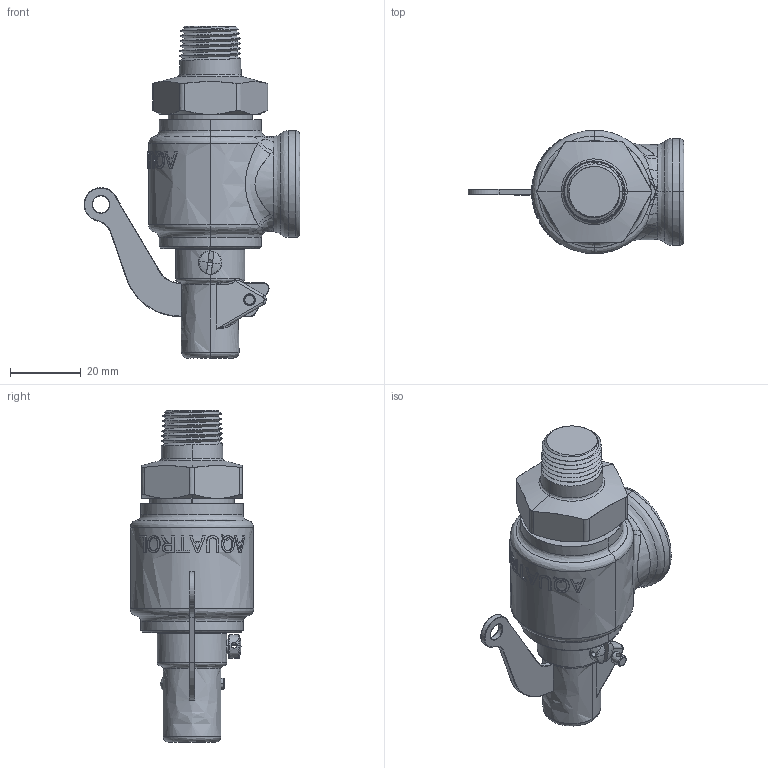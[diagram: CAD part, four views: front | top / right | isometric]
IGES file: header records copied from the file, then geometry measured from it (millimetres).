
Start section: SolidWorks IGES file using NURBS representation for surfaces
Global section: file name: C:\Design\Design\Aquatrol\Customer 3D Files\Series 130 Customer Files\Series 133\Series 133 375 inch\Series 133 375 x 500.IGS; native system: SolidWorks 2015; preprocessor: SolidWorks 2015; author: Karl; date: 150702.130710; units: inch
Bounding box: 61.12 x 34.92 x 94.03 mm (x, y, z)
Surface area: 12843.5 mm2 (no closed solid volume)
Topology: 0 solids, 0 shells, 397 faces, 5835 edges, 5823 vertices
Faces by surface type: bspline 397
